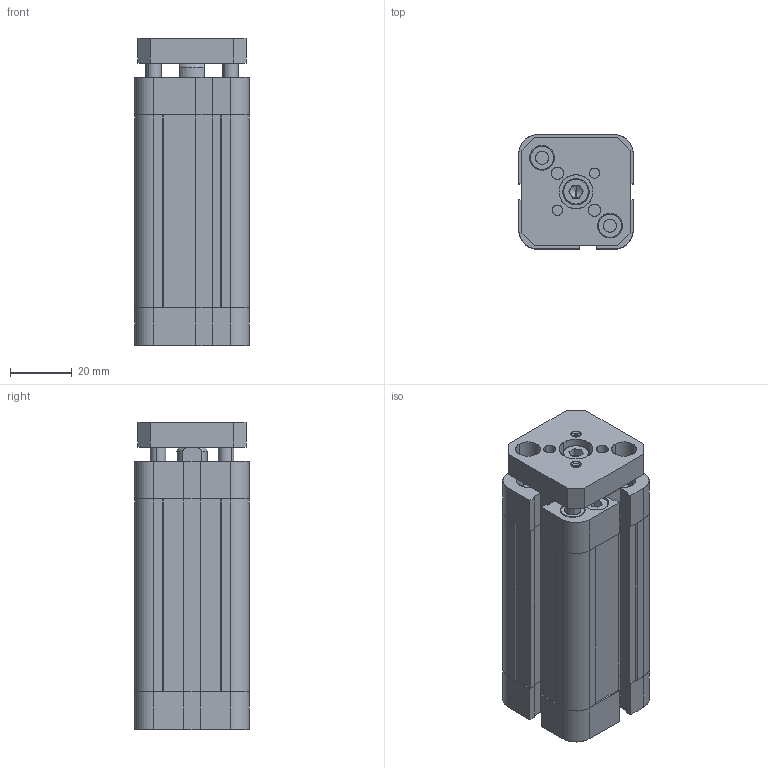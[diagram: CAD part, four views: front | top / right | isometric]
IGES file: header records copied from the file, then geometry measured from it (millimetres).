
Start section: SolidWorks IGES file using analytic representation for surfaces
Global section: file name: c:\CATALO3D\IGS\NSKI020.0050 F AR.IGS; native system: SolidWorks 2009; preprocessor: SolidWorks 2009; author: utente16; date: 100611.160258; units: millimetre
Bounding box: 37 x 37 x 99.5 mm (x, y, z)
Surface area: 44353.6 mm2 (no closed solid volume)
Topology: 0 solids, 0 shells, 659 faces, 12912 edges, 16096 vertices
Faces by surface type: revolution 337, bspline 322
